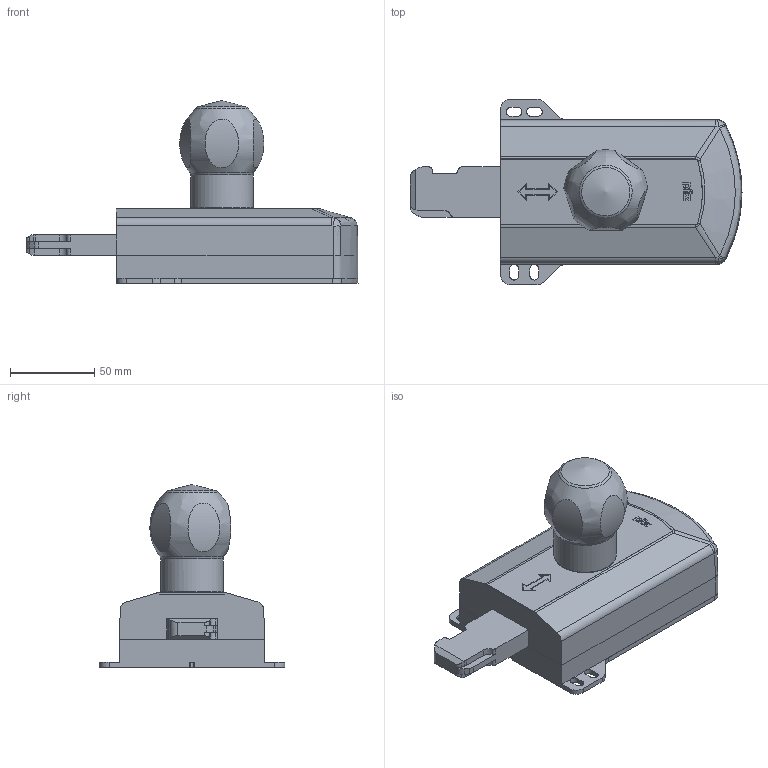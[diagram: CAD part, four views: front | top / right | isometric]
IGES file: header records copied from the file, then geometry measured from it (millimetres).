
Global section: file name: No Iges File Name specified; native system: Autodesk Inventor 2013; preprocessor: AutoDesk Inventor Iges Exporter R2013; author: jeberle; date: 20140312.164947; units: millimetre
Bounding box: 196.7 x 110 x 108.2 mm (x, y, z)
Volume: 603075.4 mm3; surface area: 59104.5 mm2
Topology: 12 solids, 12 shells, 327 faces, 806 edges, 525 vertices
Faces by surface type: bspline 327
